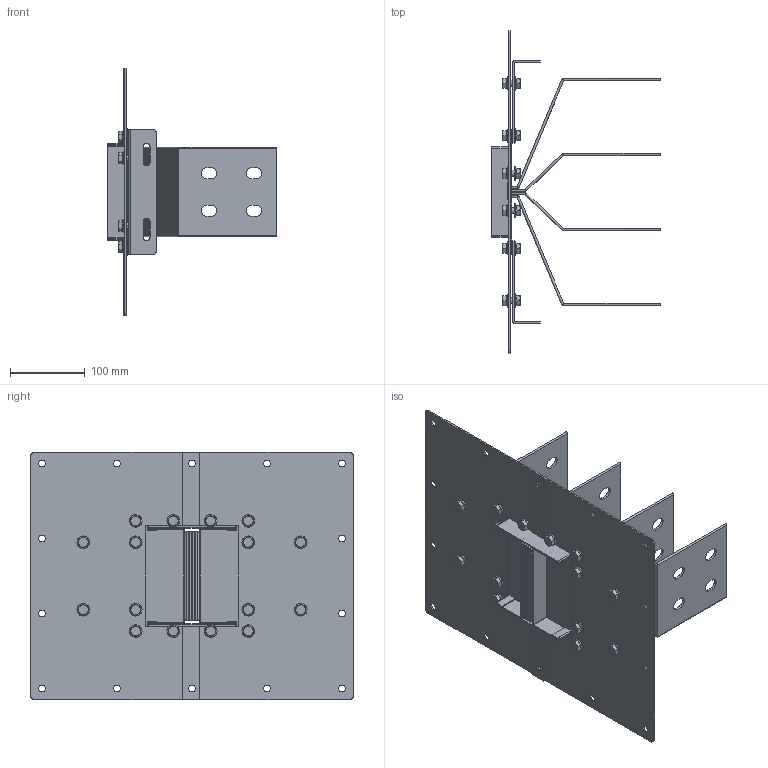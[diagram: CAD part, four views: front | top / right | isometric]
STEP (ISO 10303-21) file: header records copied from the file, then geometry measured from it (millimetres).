
FILE_DESCRIPTION(('CATIA V5 STEP','CAx-IF Rec.Pracs.--- Model Styling and Organization---1.5--- 2016-08-15','CAx-IF Rec.Pracs.---Supplemental Geometry---1.0---2011-11-01','CAx-IF Rec.Pracs.--- Composite Materials ---1.1---2010-07-15'),'2;1');
FILE_NAME('K:\COSCN 2011\32372311_RiduzioneSezioniBarre\03_Studio\__Modelli semplificati\XCP_UB semplificati per studi\XCP-S_UB_4C_Pe_STD_Assieme\Cu\XCP-S_UB_4C_Pe_S_Assieme - 1250A Cu\XCP-S_UB_4C_Pe_S_Assieme - 1250A Cu.stp','2025-05-12T13:00:51+00:00',('Utente Bticino'),('Bticino S.p.A.'),'CATIA Version 5-6 Release 2020 SP5','CATIA V5 STEP AP214 v2','none');
FILE_SCHEMA(('AUTOMOTIVE_DESIGN { 1 0 10303 214 1 1 1 1 }'));
Length unit declared in the file: millimetre
Products named in the file (7): XCP-S_UB_4C_Pe_S_Assieme - 1250A Cu; XCP-S_UB_4C_Pe_S_PaccoBarre_1250 Cu; XCP-S_UB_4C_Pe_S_Lamiere_1250A Cu; Viteria UB H130; Ass Vite+dado M8; Steel hex flanged SCREW M12x16; Steel hex flanged NUT M8
Assembly tree (21 placements, depth 4):
  XCP-S_UB_4C_Pe_S_Assieme - 1250A Cu
    XCP-S_UB_4C_Pe_S_PaccoBarre_1250 Cu
    XCP-S_UB_4C_Pe_S_Lamiere_1250A Cu
    Viteria UB H130
      Ass Vite+dado M8  x16
        Steel hex flanged SCREW M12x16
        Steel hex flanged NUT M8
Bounding box: 225 x 430 x 330 mm (x, y, z)
Volume: 895737.8 mm3; surface area: 754534.5 mm2
Topology: 44 solids, 44 shells, 1148 faces, 2824 edges, 1796 vertices
Faces by surface type: plane 480, cylinder 380, cone 128, bspline 128, torus 32
Entity records: 14965 total; most frequent: CARTESIAN_POINT 3470, ORIENTED_EDGE 2468, DIRECTION 1936, EDGE_CURVE 1234, AXIS2_PLACEMENT_3D 820, VERTEX_POINT 806, VECTOR 732, LINE 732
